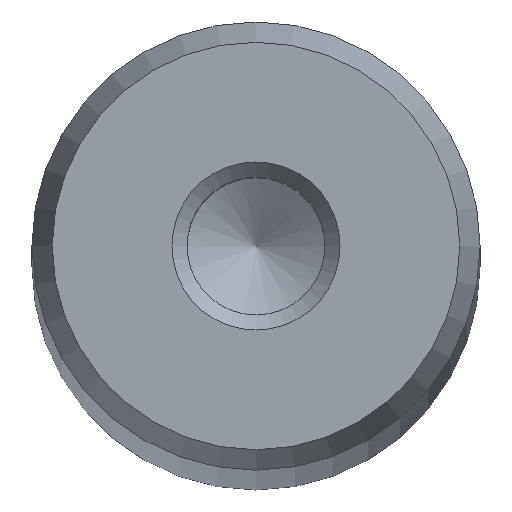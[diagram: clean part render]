
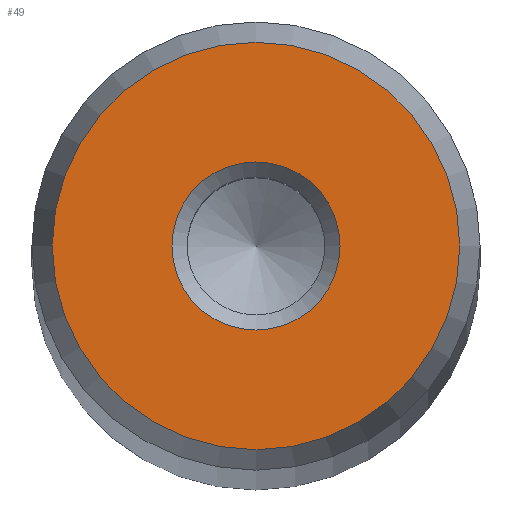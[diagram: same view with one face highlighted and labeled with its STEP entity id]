
A CAD part, top view. The second image highlights one B-rep face of the part: STEP entity #49.
In plain terms, the highlighted planar face has unit normal (0, 0, 1).
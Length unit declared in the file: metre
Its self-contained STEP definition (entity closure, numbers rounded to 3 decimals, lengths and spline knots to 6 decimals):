
#49 = ADVANCED_FACE( '', ( #104, #105 ), #106, .T. );
#104 = FACE_OUTER_BOUND( '', #163, .T. );
#105 = FACE_BOUND( '', #164, .T. );
#106 = PLANE( '', #165 );
#163 = EDGE_LOOP( '', ( #228 ) );
#164 = EDGE_LOOP( '', ( #229 ) );
#165 = AXIS2_PLACEMENT_3D( '', #230, #231, #232 );
#228 = ORIENTED_EDGE( '', *, *, #285, .T. );
#229 = ORIENTED_EDGE( '', *, *, #279, .T. );
#230 = CARTESIAN_POINT( '', ( 0., 0., 0.407 ) );
#231 = DIRECTION( '', ( 0., 0., 1. ) );
#232 = DIRECTION( '', ( 1., 0., 0. ) );
#279 = EDGE_CURVE( '', #312, #312, #313, .T. );
#285 = EDGE_CURVE( '', #321, #321, #322, .T. );
#312 = VERTEX_POINT( '', #349 );
#313 = CIRCLE( '', #350, 0.003 );
#321 = VERTEX_POINT( '', #358 );
#322 = CIRCLE( '', #359, 0.007272 );
#349 = CARTESIAN_POINT( '', ( 0.003, 0., 0.407 ) );
#350 = AXIS2_PLACEMENT_3D( '', #388, #389, #390 );
#358 = CARTESIAN_POINT( '', ( 0.007272, 0., 0.407 ) );
#359 = AXIS2_PLACEMENT_3D( '', #397, #398, #399 );
#388 = CARTESIAN_POINT( '', ( 0., 0., 0.407 ) );
#389 = DIRECTION( '', ( 0., 0., -1. ) );
#390 = DIRECTION( '', ( 1., 0., 0. ) );
#397 = CARTESIAN_POINT( '', ( 0., 0., 0.407 ) );
#398 = DIRECTION( '', ( 0., 0., 1. ) );
#399 = DIRECTION( '', ( 1., 0., 0. ) );
